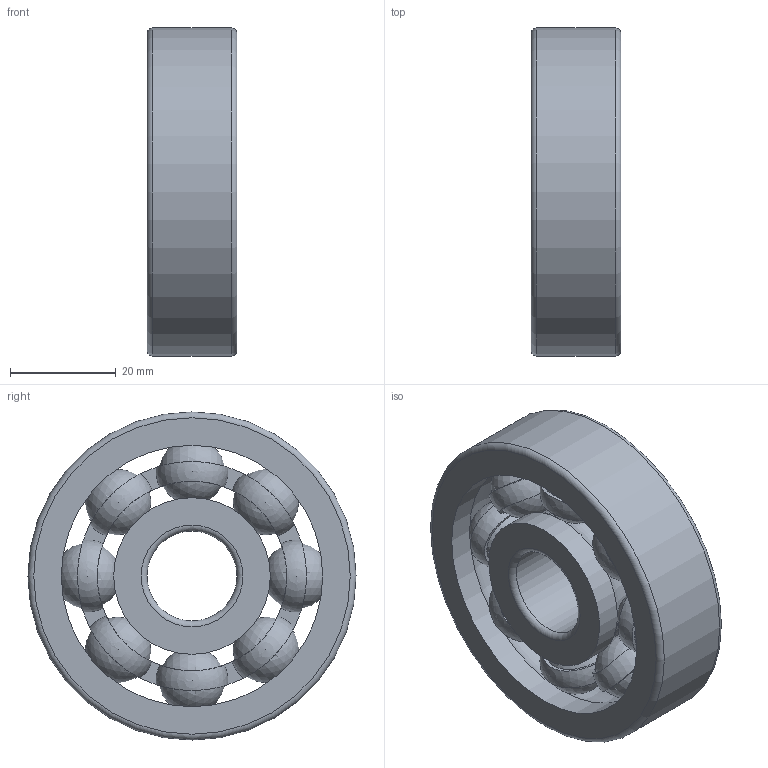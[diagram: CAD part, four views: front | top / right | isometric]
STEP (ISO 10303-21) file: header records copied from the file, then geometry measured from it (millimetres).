
FILE_DESCRIPTION(/* description */ (''),/* implementation_level */ '2;1');
FILE_NAME(/* name */ 'D:\moje\parametrické\Jednorradové gulkové ložiská-je\64--\64--_\6403.stp',/* time_stamp */ '2016-10-10T14:13:22+02:00',/* author */ ('OUBALASKO'),/* organization */ (''),/* preprocessor_version */ 'ST-DEVELOPER v15.6',/* originating_system */ 'Autodesk Inventor 2015',/* authorisation */ '');
FILE_SCHEMA (('AUTOMOTIVE_DESIGN { 1 0 10303 214 3 1 1 }'));
Length unit declared in the file: millimetre
Products named in the file (5): 6403-02; 6403-ball; 6403-cage; 6403-01; 6403
Assembly tree (12 placements, depth 2):
  6403
    6403-02
    6403-ball  x8
    6403-cage  x2
    6403-01
Bounding box: 17 x 62 x 62 mm (x, y, z)
Volume: 33670.2 mm3; surface area: 18469 mm2
Topology: 12 solids, 12 shells, 92 faces, 348 edges, 228 vertices
Faces by surface type: sphere 40, plane 36, cylinder 10, torus 6
Full cylindrical faces by diameter (mm): 17 x1, 29.58 x2, 35.78 x2, 43.22 x2, 49.42 x2, 62 x1
Entity records: 2343 total; most frequent: CARTESIAN_POINT 999, DIRECTION 298, ORIENTED_EDGE 226, AXIS2_PLACEMENT_3D 149, EDGE_CURVE 113, VERTEX_POINT 82, CIRCLE 81, EDGE_LOOP 69
